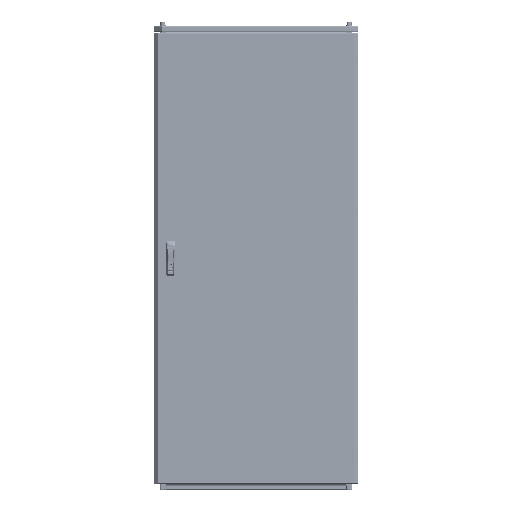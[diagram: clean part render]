
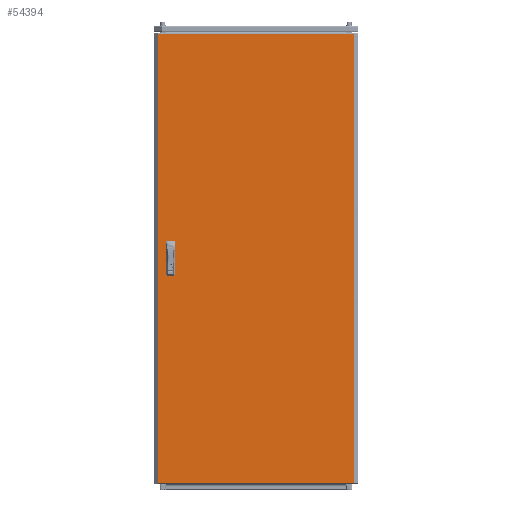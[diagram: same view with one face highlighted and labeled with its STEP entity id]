
A CAD part, top view. The second image highlights one B-rep face of the part: STEP entity #54394.
In plain terms, the highlighted planar face has unit normal (0, 0, 1).
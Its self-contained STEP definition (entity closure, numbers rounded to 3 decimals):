
#2587 = DIRECTION ( 'NONE',  ( -1., 0., 0. ) ) ;
#3196 = CARTESIAN_POINT ( 'NONE',  ( -342.5, -12.5, 0. ) ) ;
#4646 = DIRECTION ( 'NONE',  ( -1., 0., 0. ) ) ;
#7560 = DIRECTION ( 'NONE',  ( 0., 1., 0. ) ) ;
#8292 = CARTESIAN_POINT ( 'NONE',  ( -342.5, 12.5, 0. ) ) ;
#12130 = EDGE_CURVE ( 'NONE', #97023, #86912, #94724, .T. ) ;
#12149 = DIRECTION ( 'NONE',  ( 0., -1., 0. ) ) ;
#15693 = EDGE_LOOP ( 'NONE', ( #18319, #181853, #120310, #92129 ) ) ;
#18319 = ORIENTED_EDGE ( 'NONE', *, *, #73685, .F. ) ;
#19566 = CARTESIAN_POINT ( 'NONE',  ( -342.5, 62.5, 0. ) ) ;
#23784 = AXIS2_PLACEMENT_3D ( 'NONE', #108529, #130016, #131261 ) ;
#26411 = ORIENTED_EDGE ( 'NONE', *, *, #162599, .F. ) ;
#32301 = LINE ( 'NONE', #8292, #85823 ) ;
#36954 = EDGE_CURVE ( 'NONE', #84217, #142532, #113980, .T. ) ;
#38887 = VECTOR ( 'NONE', #12149, 1000. ) ;
#40232 = CARTESIAN_POINT ( 'NONE',  ( 377.875, -869.5, 0. ) ) ;
#40367 = CARTESIAN_POINT ( 'NONE',  ( -342.5, -62.5, 0. ) ) ;
#43947 = LINE ( 'NONE', #121284, #38887 ) ;
#46086 = LINE ( 'NONE', #217198, #144953 ) ;
#48252 = DIRECTION ( 'NONE',  ( 0., 1., 0. ) ) ;
#52909 = CARTESIAN_POINT ( 'NONE',  ( -317.5, 12.5, 0. ) ) ;
#54394 = ADVANCED_FACE ( 'NONE', ( #146500, #90725, #188289 ), #247819, .F. ) ;
#55255 = VECTOR ( 'NONE', #234765, 1000. ) ;
#58228 = CARTESIAN_POINT ( 'NONE',  ( -317.5, 62.5, 0. ) ) ;
#59211 = CARTESIAN_POINT ( 'NONE',  ( -342.5, 62.5, 0. ) ) ;
#63999 = EDGE_CURVE ( 'NONE', #246918, #231636, #133501, .T. ) ;
#68868 = VECTOR ( 'NONE', #191247, 1000. ) ;
#73685 = EDGE_CURVE ( 'NONE', #86912, #84217, #86941, .T. ) ;
#74379 = CARTESIAN_POINT ( 'NONE',  ( -377.875, -869.5, 0. ) ) ;
#84070 = VERTEX_POINT ( 'NONE', #85800 ) ;
#84217 = VERTEX_POINT ( 'NONE', #3196 ) ;
#85800 = CARTESIAN_POINT ( 'NONE',  ( 377.875, 869.5, 0. ) ) ;
#85823 = VECTOR ( 'NONE', #186913, 1000. ) ;
#85889 = CARTESIAN_POINT ( 'NONE',  ( -342.5, -62.5, 0. ) ) ;
#86912 = VERTEX_POINT ( 'NONE', #168409 ) ;
#86941 = LINE ( 'NONE', #239030, #238423 ) ;
#89936 = VECTOR ( 'NONE', #2587, 1000. ) ;
#90725 = FACE_BOUND ( 'NONE', #15693, .T. ) ;
#92129 = ORIENTED_EDGE ( 'NONE', *, *, #36954, .F. ) ;
#94172 = VERTEX_POINT ( 'NONE', #74379 ) ;
#94724 = LINE ( 'NONE', #230252, #180748 ) ;
#97023 = VERTEX_POINT ( 'NONE', #133618 ) ;
#98525 = ORIENTED_EDGE ( 'NONE', *, *, #63999, .F. ) ;
#101834 = EDGE_LOOP ( 'NONE', ( #110553, #168221, #133380, #160184 ) ) ;
#103799 = VECTOR ( 'NONE', #7560, 1000. ) ;
#105225 = ORIENTED_EDGE ( 'NONE', *, *, #169207, .F. ) ;
#106522 = EDGE_CURVE ( 'NONE', #94172, #223705, #46086, .T. ) ;
#108529 = CARTESIAN_POINT ( 'NONE',  ( 0., 0., 0. ) ) ;
#109557 = EDGE_LOOP ( 'NONE', ( #26411, #105225, #190500, #98525 ) ) ;
#110553 = ORIENTED_EDGE ( 'NONE', *, *, #179217, .T. ) ;
#112052 = CARTESIAN_POINT ( 'NONE',  ( -377.875, 869.5, 0. ) ) ;
#113980 = LINE ( 'NONE', #40367, #68868 ) ;
#120310 = ORIENTED_EDGE ( 'NONE', *, *, #151387, .F. ) ;
#121284 = CARTESIAN_POINT ( 'NONE',  ( -377.875, -869.5, 0. ) ) ;
#123399 = DIRECTION ( 'NONE',  ( 1., 0., 0. ) ) ;
#130016 = DIRECTION ( 'NONE',  ( 0., 0., -1. ) ) ;
#131261 = DIRECTION ( 'NONE',  ( -1., 0., 0. ) ) ;
#133380 = ORIENTED_EDGE ( 'NONE', *, *, #190984, .T. ) ;
#133501 = LINE ( 'NONE', #231040, #55255 ) ;
#133618 = CARTESIAN_POINT ( 'NONE',  ( -317.5, -62.5, 0. ) ) ;
#137940 = EDGE_CURVE ( 'NONE', #231636, #217525, #32301, .T. ) ;
#138983 = VERTEX_POINT ( 'NONE', #58228 ) ;
#140319 = CARTESIAN_POINT ( 'NONE',  ( -342.5, 12.5, 0. ) ) ;
#141118 = CARTESIAN_POINT ( 'NONE',  ( -317.5, 12.5, 0. ) ) ;
#142532 = VERTEX_POINT ( 'NONE', #202355 ) ;
#144953 = VECTOR ( 'NONE', #123399, 1000. ) ;
#146500 = FACE_BOUND ( 'NONE', #109557, .T. ) ;
#151387 = EDGE_CURVE ( 'NONE', #142532, #97023, #236716, .T. ) ;
#156755 = VERTEX_POINT ( 'NONE', #166404 ) ;
#160184 = ORIENTED_EDGE ( 'NONE', *, *, #106522, .T. ) ;
#162599 = EDGE_CURVE ( 'NONE', #138983, #246918, #175767, .T. ) ;
#166404 = CARTESIAN_POINT ( 'NONE',  ( -377.875, 869.5, 0. ) ) ;
#168221 = ORIENTED_EDGE ( 'NONE', *, *, #197980, .T. ) ;
#168409 = CARTESIAN_POINT ( 'NONE',  ( -317.5, -12.5, 0. ) ) ;
#169207 = EDGE_CURVE ( 'NONE', #217525, #138983, #173184, .T. ) ;
#173184 = LINE ( 'NONE', #52909, #226764 ) ;
#175767 = LINE ( 'NONE', #59211, #204914 ) ;
#179217 = EDGE_CURVE ( 'NONE', #223705, #84070, #221686, .T. ) ;
#180748 = VECTOR ( 'NONE', #48252, 1000. ) ;
#181853 = ORIENTED_EDGE ( 'NONE', *, *, #12130, .F. ) ;
#186913 = DIRECTION ( 'NONE',  ( 1., 0., 0. ) ) ;
#188289 = FACE_OUTER_BOUND ( 'NONE', #101834, .T. ) ;
#190500 = ORIENTED_EDGE ( 'NONE', *, *, #137940, .F. ) ;
#190984 = EDGE_CURVE ( 'NONE', #156755, #94172, #43947, .T. ) ;
#191247 = DIRECTION ( 'NONE',  ( 0., -1., 0. ) ) ;
#197980 = EDGE_CURVE ( 'NONE', #84070, #156755, #207081, .T. ) ;
#202355 = CARTESIAN_POINT ( 'NONE',  ( -342.5, -62.5, 0. ) ) ;
#202715 = CARTESIAN_POINT ( 'NONE',  ( 377.875, -869.5, 0. ) ) ;
#204914 = VECTOR ( 'NONE', #234017, 1000. ) ;
#207081 = LINE ( 'NONE', #112052, #89936 ) ;
#207273 = VECTOR ( 'NONE', #240445, 1000. ) ;
#217198 = CARTESIAN_POINT ( 'NONE',  ( -377.875, -869.5, 0. ) ) ;
#217525 = VERTEX_POINT ( 'NONE', #141118 ) ;
#221686 = LINE ( 'NONE', #202715, #103799 ) ;
#223705 = VERTEX_POINT ( 'NONE', #40232 ) ;
#226764 = VECTOR ( 'NONE', #246739, 1000. ) ;
#230252 = CARTESIAN_POINT ( 'NONE',  ( -317.5, -62.5, 0. ) ) ;
#231040 = CARTESIAN_POINT ( 'NONE',  ( -342.5, 12.5, 0. ) ) ;
#231636 = VERTEX_POINT ( 'NONE', #140319 ) ;
#234017 = DIRECTION ( 'NONE',  ( -1., 0., 0. ) ) ;
#234765 = DIRECTION ( 'NONE',  ( 0., -1., 0. ) ) ;
#236716 = LINE ( 'NONE', #85889, #207273 ) ;
#238423 = VECTOR ( 'NONE', #4646, 1000. ) ;
#239030 = CARTESIAN_POINT ( 'NONE',  ( -342.5, -12.5, 0. ) ) ;
#240445 = DIRECTION ( 'NONE',  ( 1., 0., 0. ) ) ;
#246739 = DIRECTION ( 'NONE',  ( 0., 1., 0. ) ) ;
#246918 = VERTEX_POINT ( 'NONE', #19566 ) ;
#247819 = PLANE ( 'NONE',  #23784 ) ;
